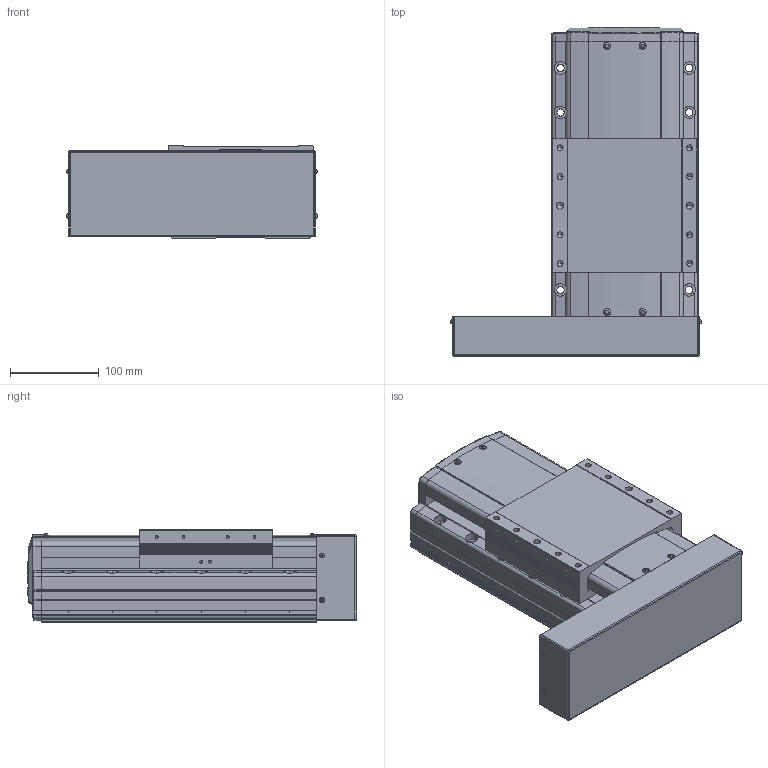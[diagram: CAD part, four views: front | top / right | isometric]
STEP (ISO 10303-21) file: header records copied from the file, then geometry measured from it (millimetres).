
FILE_DESCRIPTION(('STEP AP214'),'1');
FILE_NAME('Z:/Web/3D/PSA165/STP/PSA165-050 (3D)/PSA165ㅁㅁ-050PL.stp','2014-06-23T06:23:18',(' '),(' '),'Spatial InterOp 3D',' ',' ');
FILE_SCHEMA(('automotive_design'));
Length unit declared in the file: millimetre
Products named in the file (23): 스크루 : Round - M4.0 x 12.0; RRCV-PA160; BASE; 스크루 : Round - M4.0 x 10.0; RN15; Screw 20; SLIDE; FRCV; MTPL; 스크루 : Round - M3.0 x 6.0
Bounding box: 281.93 x 370.8 x 104 mm (x, y, z)
Volume: 5918693.1 mm3; surface area: 498926.8 mm2
Topology: 23 solids, 23 shells, 1873 faces, 5041 edges, 3224 vertices
Faces by surface type: plane 1064, cylinder 565, cone 159, sphere 44, bspline 25, torus 16
Entity records: 76389 total; most frequent: CARTESIAN_POINT 13697, DIRECTION 9937, ORIENTED_EDGE 9858, EDGE_CURVE 4929, LINE 3381, VECTOR 3381, AXIS2_PLACEMENT_3D 3278, VERTEX_POINT 3224
